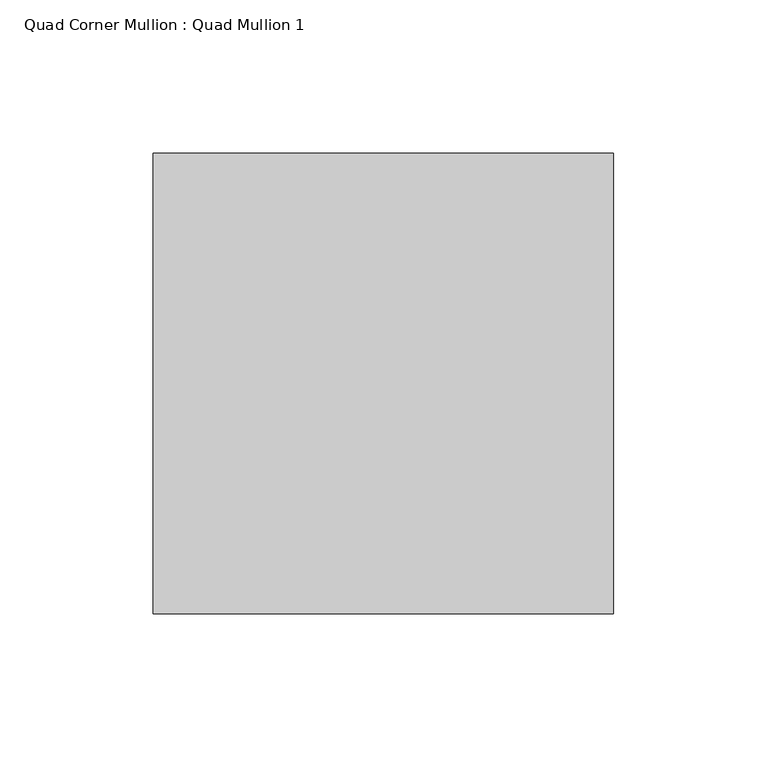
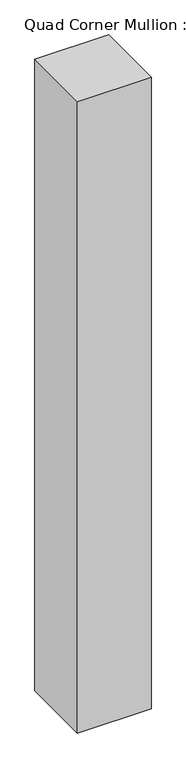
"""IFC4 building model written with IfcOpenShell, lengths in millimetres: member geometry, Quad Corner Mullion : Quad Mullion 1."""

import ifcopenshell
import ifcopenshell.guid

model = None  # the IFC model being written
_history = None  # IfcOwnerHistory: only IFC2X3 demands one
_inside = {}  # id of a spatial element -> (the spatial element, [elements in it])
_under = {}  # id of a project, library or spatial element -> (it, [spatial elements below it])
_declared = {}  # id of a project -> (the project, [libraries it declares])
_typed = {}  # id of a type object -> (the type object, [elements of that type])
_made_of = {}  # id of a material, layer set ... -> (it, [elements and type objects made of it])


def new_model(schema):
    """Start an empty IFC model of exactly this schema.

    Asked for "IFC4X3", IfcOpenShell would pick the latest addendum, in which some entities
    have other attributes; the version numbers below select the first issue.
    IFC2X3 requires an IfcOwnerHistory on every rooted entity: one is made here for all.
    """
    global model, _history
    if schema == "IFC4X3":
        model = ifcopenshell.file(schema_version=(4, 3, 0, 0))
    else:
        model = ifcopenshell.file(schema=schema)
    _inside.clear()
    _under.clear()
    _declared.clear()
    _typed.clear()
    _made_of.clear()
    _history = None
    if model.schema == "IFC2X3":
        org = make("IfcOrganization", Name="unknown")
        user = make(
            "IfcPersonAndOrganization",
            ThePerson=make("IfcPerson", FamilyName="unknown"),
            TheOrganization=org,
        )
        app = make(
            "IfcApplication",
            ApplicationDeveloper=org,
            Version="unknown",
            ApplicationFullName="unknown",
            ApplicationIdentifier="unknown",
        )
        _history = make(
            "IfcOwnerHistory",
            OwningUser=user,
            OwningApplication=app,
            ChangeAction="ADDED",
            CreationDate=0,
        )
    return model


def make(cls, **values):
    """One entity of the class cls with the attributes given. An attribute that is None is left unset."""
    return model.create_entity(
        cls, **{name: value for name, value in values.items() if value is not None}
    )


def rooted(cls, **values):
    """An entity with a GlobalId (a new one), such as an element, a storey or a relation."""
    return make(cls, GlobalId=ifcopenshell.guid.new(), OwnerHistory=_history, **values)


def si_unit(unit_type, name, prefix=None):
    """IfcSIUnit, for example si_unit("LENGTHUNIT", "METRE", prefix="MILLI")."""
    return make("IfcSIUnit", UnitType=unit_type, Prefix=prefix, Name=name)


def assignment(units):
    """IfcUnitAssignment: the units of a project."""
    return None if units is None else make("IfcUnitAssignment", Units=units)


def point(xyz):
    """IfcCartesianPoint."""
    return None if xyz is None else make("IfcCartesianPoint", Coordinates=xyz)


def direction(xyz):
    """IfcDirection."""
    return None if xyz is None else make("IfcDirection", DirectionRatios=xyz)


def frame(location, z_axis=None, x_axis=None):
    """IfcAxis2Placement3D, a coordinate frame: its origin and axes. An axis left out is left unset."""
    return make(
        "IfcAxis2Placement3D",
        Location=point(location),
        Axis=direction(z_axis),
        RefDirection=direction(x_axis),
    )


def origin():
    """The frame at (0, 0, 0) with its axes left unset."""
    return frame((0.0, 0.0, 0.0))


def place(relative_to, where):
    """IfcLocalPlacement: puts the frame where relative to a parent placement (None: the world)."""
    return make(
        "IfcLocalPlacement", PlacementRelTo=relative_to, RelativePlacement=where
    )


def context(
    kind, dimensions, precision=None, world=None, true_north=None, identifier=None
):
    """IfcGeometricRepresentationContext, for example the 3D "Model" context."""
    return make(
        "IfcGeometricRepresentationContext",
        ContextIdentifier=identifier,
        ContextType=kind,
        CoordinateSpaceDimension=dimensions,
        Precision=precision,
        WorldCoordinateSystem=world,
        TrueNorth=true_north,
    )


def project(units=None, contexts=None):
    """IfcProject with its units and contexts."""
    return rooted(
        "IfcProject",
        Name="project",
        RepresentationContexts=contexts,
        UnitsInContext=assignment(units),
    )


def spatial(cls, under=None, at=None, **own):
    """A site, building, storey or space (cls), placed at a placement, below another one or the project."""
    s = rooted(cls, ObjectPlacement=at, **own)
    if under is not None:
        _under.setdefault(under.id(), (under, []))[1].append(s)
    return s


def polyline(points):
    """IfcPolyline through the points."""
    return make("IfcPolyline", Points=[point(p) for p in points])


def outline(outer, holes=None, kind="AREA"):
    """IfcArbitraryClosedProfileDef: a profile drawn as a closed curve; with holes, ...WithVoids."""
    if holes is None:
        return make("IfcArbitraryClosedProfileDef", ProfileType=kind, OuterCurve=outer)
    return make(
        "IfcArbitraryProfileDefWithVoids",
        ProfileType=kind,
        OuterCurve=outer,
        InnerCurves=holes,
    )


def extrude(swept, where, along, depth):
    """IfcExtrudedAreaSolid: the profile swept, set in the frame where, extruded along a direction by depth."""
    return make(
        "IfcExtrudedAreaSolid",
        SweptArea=swept,
        Position=where,
        ExtrudedDirection=direction(along),
        Depth=depth,
    )


def shape(context_of_items, identifier, shape_type, items):
    """IfcShapeRepresentation: the items that make up one representation, for example the "Body"."""
    return make(
        "IfcShapeRepresentation",
        ContextOfItems=context_of_items,
        RepresentationIdentifier=identifier,
        RepresentationType=shape_type,
        Items=items,
    )


def source(mapping_origin, context_of_items, identifier, shape_type, items):
    """IfcRepresentationMap: a shape defined once, which mapped items show again and again."""
    return make(
        "IfcRepresentationMap",
        MappingOrigin=mapping_origin,
        MappedRepresentation=shape(context_of_items, identifier, shape_type, items),
    )


def transform(
    local_origin,
    x_axis=None,
    y_axis=None,
    z_axis=None,
    scale=None,
    scale2=None,
    scale3=None,
    uniform=True,
):
    """IfcCartesianTransformationOperator3D, or its non-uniform kind. x_axis, y_axis, z_axis: its Axis1, 2, 3."""
    if uniform:
        return make(
            "IfcCartesianTransformationOperator3D",
            Axis1=direction(x_axis),
            Axis2=direction(y_axis),
            LocalOrigin=point(local_origin),
            Scale=scale,
            Axis3=direction(z_axis),
        )
    return make(
        "IfcCartesianTransformationOperator3DnonUniform",
        Axis1=direction(x_axis),
        Axis2=direction(y_axis),
        LocalOrigin=point(local_origin),
        Scale=scale,
        Axis3=direction(z_axis),
        Scale2=scale2,
        Scale3=scale3,
    )


def mapped(mapping_source, mapping_target):
    """IfcMappedItem: shows the shape of a source again, moved by a transform."""
    return make(
        "IfcMappedItem", MappingSource=mapping_source, MappingTarget=mapping_target
    )


def made_of(thing, what):
    """Note that an element or type object is made of a material, layer set ...; save() writes the relation."""
    if what is not None:
        _made_of.setdefault(what.id(), (what, []))[1].append(thing)
    return thing


def element(
    cls,
    number,
    at=None,
    inside=None,
    cuts=None,
    type_object=None,
    material=None,
    context=None,
    identifier="Body",
    shape_type=None,
    held_by="IfcProductDefinitionShape",
    body=None,
    shapes=None,
    **own,
):
    """One element of the class cls, such as IfcWall. Its Tag is "e" and its number.

    at: its placement. inside: the storey or other place that contains it. cuts: it is an
    opening in that element (IfcRelVoidsElement). A single representation is given by context,
    identifier, shape_type and body (its items); several are given by shapes. held_by: the class
    of the entity that holds the representations. save() writes the other relations.
    """
    e = rooted(cls, Tag="e%d" % number, ObjectPlacement=at, **own)
    if body is not None:
        shapes = [shape(context, identifier, shape_type, body)]
    if shapes is not None:
        e.Representation = make(held_by, Representations=shapes)
    if inside is not None:
        _inside.setdefault(inside.id(), (inside, []))[1].append(e)
    if cuts is not None:
        rooted(
            "IfcRelVoidsElement", RelatingBuildingElement=cuts, RelatedOpeningElement=e
        )
    if type_object is not None:
        _typed.setdefault(type_object.id(), (type_object, []))[1].append(e)
    return made_of(e, material)


def aggregate(whole, parts):
    """IfcRelAggregates: a whole, such as a stair, and the parts it consists of."""
    return rooted("IfcRelAggregates", RelatingObject=whole, RelatedObjects=parts)


def save(model, path):
    """Write the relations noted so far, then the file.

    IfcRelAggregates (storeys below a building ...), IfcRelContainedInSpatialStructure (elements
    in a storey), IfcRelDefinesByType, IfcRelAssociatesMaterial and IfcRelDeclares: one each for
    every whole, place, type object, material and project.
    """
    for whole, parts in _under.values():
        aggregate(whole, parts)
    for where, things in _inside.values():
        rooted(
            "IfcRelContainedInSpatialStructure",
            RelatedElements=things,
            RelatingStructure=where,
        )
    for kind, things in _typed.values():
        rooted("IfcRelDefinesByType", RelatedObjects=things, RelatingType=kind)
    for what, things in _made_of.values():
        rooted("IfcRelAssociatesMaterial", RelatedObjects=things, RelatingMaterial=what)
    for by, libraries in _declared.values():
        rooted("IfcRelDeclares", RelatingContext=by, RelatedDefinitions=libraries)
    model.write(path)


def quad_corner_mullion_quad_mullion_1_d5379b67(model_context):
    return source(origin(), model_context, "Body", "SweptSolid", [
        extrude(outline(polyline([(75.0, 75.0), (75.0, -75.0), (-75.0, -75.0), (-75.0, 75.0), (75.0, 75.0)])), frame((0.0, 0.0, -1360.0), z_axis=(0.0, 0.0, 1.0), x_axis=(1.0, 0.0, 0.0)), (0.0, 0.0, 1.0), 1360.0),
    ])


if __name__ == "__main__":
    model = new_model("IFC4")
    model_context = context("Model", 3, world=origin())
    ifc_project = project(units=[si_unit("LENGTHUNIT", "METRE", prefix="MILLI")], contexts=[model_context])
    site = spatial("IfcSite", under=ifc_project)
    building = spatial("IfcBuilding", under=site)
    placement = place(None, origin())
    quad_corner_mullion_quad_mullion_1_shape = quad_corner_mullion_quad_mullion_1_d5379b67(model_context)
    element("IfcMember", 1, ObjectType="Quad Corner Mullion : Quad Mullion 1", at=placement, inside=building, context=model_context, shape_type="MappedRepresentation", body=[
        mapped(quad_corner_mullion_quad_mullion_1_shape, transform((0.0, 0.0, 0.0), x_axis=(1.0, 0.0, 0.0), y_axis=(0.0, 1.0, 0.0), z_axis=(0.0, 0.0, 1.0))),
    ])
    save(model, "model.ifc")
